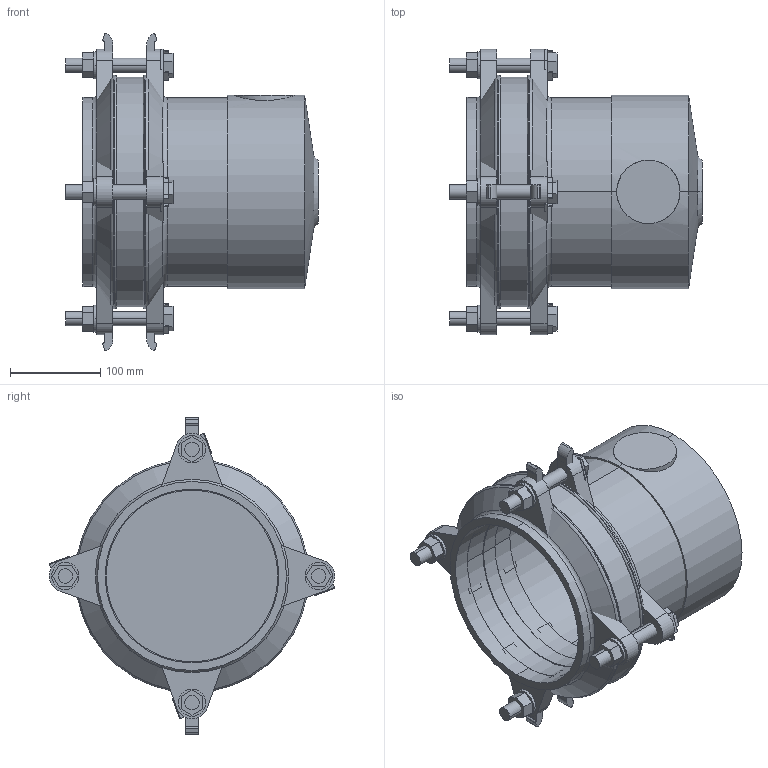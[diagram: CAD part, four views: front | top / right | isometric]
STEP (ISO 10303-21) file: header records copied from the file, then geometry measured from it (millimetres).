
FILE_DESCRIPTION(('STEP AP214'),'1');
FILE_NAME('HDA00049 DN 150.STP','2015-02-06T09:55:34',(' '),(' '),'Spatial InterOp 3D',' ',' ');
FILE_SCHEMA(('automotive_design'));
Length unit declared in the file: millimetre
Products named in the file (44): 3D-Objekt
Bounding box: 279 x 315.52 x 350 mm (x, y, z)
Volume: 2821223.4 mm3; surface area: 770760.6 mm2
Topology: 44 solids, 44 shells, 335 faces, 735 edges, 488 vertices
Faces by surface type: plane 229, cylinder 82, cone 12, torus 12
Entity records: 13046 total; most frequent: CARTESIAN_POINT 1733, DIRECTION 1711, ORIENTED_EDGE 1470, EDGE_CURVE 735, AXIS2_PLACEMENT_3D 599, LINE 513, VECTOR 513, VERTEX_POINT 488
